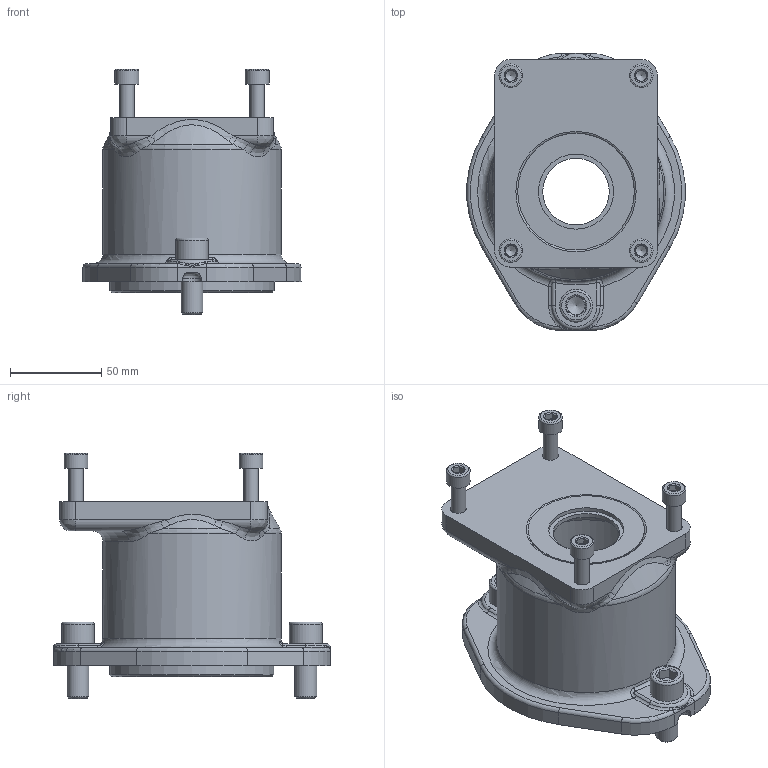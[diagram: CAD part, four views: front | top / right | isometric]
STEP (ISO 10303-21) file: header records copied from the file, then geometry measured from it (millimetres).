
FILE_DESCRIPTION(/* description */ (''),/* implementation_level */ '2;1');
FILE_NAME(/* name */ '3000022200_Semplifica_1.stp',/* time_stamp */ '2023-03-23T11:19:41+01:00',/* author */ ('marcop'),/* organization */ (''),/* preprocessor_version */ 'ST-DEVELOPER v19.2',/* originating_system */ 'Autodesk Inventor 2023',/* authorisation */ '');
FILE_SCHEMA (('AUTOMOTIVE_DESIGN { 1 0 10303 214 3 1 1 }'));
Length unit declared in the file: inch
Products named in the file (1): 3000022200_Semplifica_1
Bounding box: 119.66 x 152 x 134.5 mm (x, y, z)
Volume: 400734.9 mm3; surface area: 94723.7 mm2
Topology: 1 solids, 1 shells, 279 faces, 667 edges, 408 vertices
Faces by surface type: plane 115, cylinder 63, bspline 45, cone 29, torus 27
Full cylindrical faces by diameter (mm): 6.647 x2, 8 x4, 12 x2, 13 x6, 18 x2, 36.5 x1, 41.2 x1, 50 x1, 60 x1, 64 x2, 80 x1, 90 x1, 98 x1, 99 x1, 106 x1
Entity records: 9585 total; most frequent: CARTESIAN_POINT 3113, ORIENTED_EDGE 1318, DIRECTION 1242, EDGE_CURVE 659, AXIS2_PLACEMENT_3D 505, VERTEX_POINT 408, EDGE_LOOP 309, STYLED_ITEM 280
